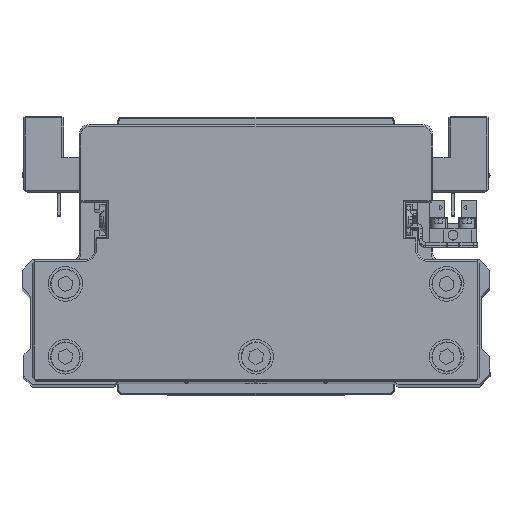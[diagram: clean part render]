
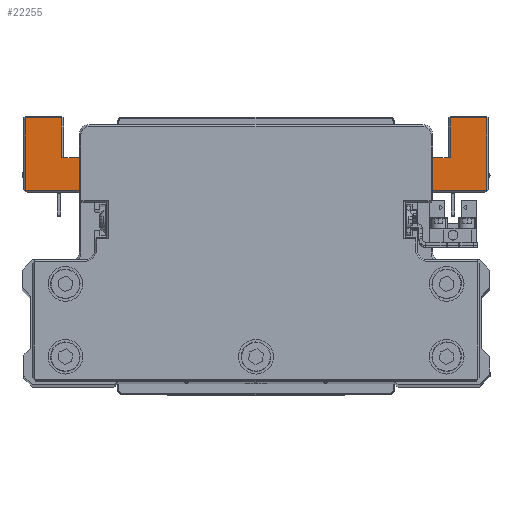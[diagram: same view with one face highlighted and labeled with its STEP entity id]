
A CAD part, top view. The second image highlights one B-rep face of the part: STEP entity #22255.
In plain terms, the highlighted planar face has unit normal (0, 0, 1) as drawn and (0, -1, 0) by its records, which use the part's own axes.
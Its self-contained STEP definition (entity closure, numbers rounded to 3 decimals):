
#18 = DIRECTION ( 'NONE',  ( 0., 0., -1. ) ) ;
#48 = CARTESIAN_POINT ( 'NONE',  ( 66.5, -45., -64. ) ) ;
#260 = CARTESIAN_POINT ( 'NONE',  ( 36.217, -45., -42.5 ) ) ;
#387 = CARTESIAN_POINT ( 'NONE',  ( 46., -45., -54. ) ) ;
#418 = EDGE_CURVE ( 'NONE', #27583, #1459, #30258, .T. ) ;
#444 = CARTESIAN_POINT ( 'NONE',  ( 56., -45., -64.5 ) ) ;
#1459 = VERTEX_POINT ( 'NONE', #9721 ) ;
#1509 = VERTEX_POINT ( 'NONE', #22365 ) ;
#1642 = ORIENTED_EDGE ( 'NONE', *, *, #12090, .T. ) ;
#1990 = DIRECTION ( 'NONE',  ( 0., 0., -1. ) ) ;
#2200 = LINE ( 'NONE', #14428, #6895 ) ;
#2369 = AXIS2_PLACEMENT_3D ( 'NONE', #17242, #29451, #1990 ) ;
#2451 = LINE ( 'NONE', #14681, #24000 ) ;
#2801 = CARTESIAN_POINT ( 'NONE',  ( -39.868, -45., -42.987 ) ) ;
#2922 = VERTEX_POINT ( 'NONE', #260 ) ;
#2991 = PLANE ( 'NONE',  #37700 ) ;
#3049 = VERTEX_POINT ( 'NONE', #37520 ) ;
#3052 = LINE ( 'NONE', #15298, #37426 ) ;
#3863 = EDGE_CURVE ( 'NONE', #11028, #8282, #21960, .T. ) ;
#3893 = EDGE_CURVE ( 'NONE', #3049, #36603, #31383, .T. ) ;
#3905 = DIRECTION ( 'NONE',  ( 0., 1., 0. ) ) ;
#3929 = CARTESIAN_POINT ( 'NONE',  ( -66.5, -45., -64.5 ) ) ;
#4013 = EDGE_CURVE ( 'NONE', #4959, #31979, #26174, .T. ) ;
#4467 = LINE ( 'NONE', #16699, #7342 ) ;
#4479 = VERTEX_POINT ( 'NONE', #20087 ) ;
#4784 = VERTEX_POINT ( 'NONE', #31290 ) ;
#4959 = VERTEX_POINT ( 'NONE', #32245 ) ;
#5586 = VECTOR ( 'NONE', #10929, 1000. ) ;
#5895 = ORIENTED_EDGE ( 'NONE', *, *, #14144, .T. ) ;
#6079 = VECTOR ( 'NONE', #11724, 1000. ) ;
#6304 = CARTESIAN_POINT ( 'NONE',  ( -56., -45., -64. ) ) ;
#6420 = DIRECTION ( 'NONE',  ( 1., 0., 0. ) ) ;
#6707 = DIRECTION ( 'NONE',  ( 0., 0., 1. ) ) ;
#6895 = VECTOR ( 'NONE', #26659, 1000. ) ;
#7342 = VECTOR ( 'NONE', #28909, 1000. ) ;
#7876 = ORIENTED_EDGE ( 'NONE', *, *, #17198, .F. ) ;
#8282 = VERTEX_POINT ( 'NONE', #10879 ) ;
#9054 = CARTESIAN_POINT ( 'NONE',  ( 25.802, -45., -41.111 ) ) ;
#9721 = CARTESIAN_POINT ( 'NONE',  ( -39.868, -45., -42.987 ) ) ;
#9892 = ORIENTED_EDGE ( 'NONE', *, *, #11015, .T. ) ;
#10021 = CARTESIAN_POINT ( 'NONE',  ( 56., -45., -64. ) ) ;
#10858 = LINE ( 'NONE', #23077, #22984 ) ;
#10879 = CARTESIAN_POINT ( 'NONE',  ( 66.5, -45., -43. ) ) ;
#10929 = DIRECTION ( 'NONE',  ( -1., 0., 0. ) ) ;
#11015 = EDGE_CURVE ( 'NONE', #13713, #2922, #36503, .T. ) ;
#11028 = VERTEX_POINT ( 'NONE', #48 ) ;
#11053 = CARTESIAN_POINT ( 'NONE',  ( -46., -45., -52.5 ) ) ;
#11484 = LINE ( 'NONE', #23695, #18893 ) ;
#11724 = DIRECTION ( 'NONE',  ( 0., 0., 1. ) ) ;
#12090 = EDGE_CURVE ( 'NONE', #12771, #13713, #29528, .T. ) ;
#12238 = AXIS2_PLACEMENT_3D ( 'NONE', #31363, #3905, #16136 ) ;
#12617 = DIRECTION ( 'NONE',  ( 1., 0., 0. ) ) ;
#12680 = DIRECTION ( 'NONE',  ( 0., 0., -1. ) ) ;
#12771 = VERTEX_POINT ( 'NONE', #21075 ) ;
#13085 = ORIENTED_EDGE ( 'NONE', *, *, #20900, .T. ) ;
#13713 = VERTEX_POINT ( 'NONE', #21718 ) ;
#14076 = VECTOR ( 'NONE', #15029, 1000. ) ;
#14144 = EDGE_CURVE ( 'NONE', #36603, #21400, #21668, .T. ) ;
#14428 = CARTESIAN_POINT ( 'NONE',  ( -66., -45., -43. ) ) ;
#14681 = CARTESIAN_POINT ( 'NONE',  ( 55.5, -45., -52.5 ) ) ;
#15029 = DIRECTION ( 'NONE',  ( -0.991, 0., -0.132 ) ) ;
#15195 = CARTESIAN_POINT ( 'NONE',  ( 46., -45., -52.5 ) ) ;
#15242 = CARTESIAN_POINT ( 'NONE',  ( 0., -45., 0. ) ) ;
#15298 = CARTESIAN_POINT ( 'NONE',  ( -77.786, -45., -42.5 ) ) ;
#15666 = EDGE_CURVE ( 'NONE', #2922, #27583, #3052, .T. ) ;
#16136 = DIRECTION ( 'NONE',  ( 0., 0., -1. ) ) ;
#16159 = DIRECTION ( 'NONE',  ( 0., 0., -1. ) ) ;
#16699 = CARTESIAN_POINT ( 'NONE',  ( 46., -45., -52.5 ) ) ;
#17000 = CARTESIAN_POINT ( 'NONE',  ( -36.217, -45., -42.5 ) ) ;
#17198 = EDGE_CURVE ( 'NONE', #4784, #4959, #38506, .T. ) ;
#17242 = CARTESIAN_POINT ( 'NONE',  ( -40.066, -45., -41.5 ) ) ;
#17699 = ORIENTED_EDGE ( 'NONE', *, *, #30259, .T. ) ;
#17856 = VERTEX_POINT ( 'NONE', #15195 ) ;
#18389 = VECTOR ( 'NONE', #6707, 1000. ) ;
#18490 = VECTOR ( 'NONE', #12680, 1000. ) ;
#18893 = VECTOR ( 'NONE', #35900, 1000. ) ;
#19012 = EDGE_CURVE ( 'NONE', #1459, #35753, #19657, .T. ) ;
#19657 = CIRCLE ( 'NONE', #2369, 1.5 ) ;
#20087 = CARTESIAN_POINT ( 'NONE',  ( 56., -45., -52.5 ) ) ;
#20206 = ORIENTED_EDGE ( 'NONE', *, *, #418, .T. ) ;
#20900 = EDGE_CURVE ( 'NONE', #35753, #3049, #2200, .T. ) ;
#21075 = CARTESIAN_POINT ( 'NONE',  ( 40.066, -45., -43. ) ) ;
#21237 = ORIENTED_EDGE ( 'NONE', *, *, #30122, .F. ) ;
#21267 = ORIENTED_EDGE ( 'NONE', *, *, #22312, .T. ) ;
#21274 = DIRECTION ( 'NONE',  ( -0.991, 0., 0.132 ) ) ;
#21276 = ORIENTED_EDGE ( 'NONE', *, *, #15666, .T. ) ;
#21330 = ORIENTED_EDGE ( 'NONE', *, *, #3893, .T. ) ;
#21400 = VERTEX_POINT ( 'NONE', #6304 ) ;
#21668 = LINE ( 'NONE', #33885, #22623 ) ;
#21718 = CARTESIAN_POINT ( 'NONE',  ( 39.868, -45., -42.987 ) ) ;
#21876 = EDGE_CURVE ( 'NONE', #4479, #38258, #27888, .T. ) ;
#21960 = LINE ( 'NONE', #34175, #18389 ) ;
#22037 = EDGE_CURVE ( 'NONE', #38258, #11028, #10858, .T. ) ;
#22255 = ADVANCED_FACE ( 'NONE', ( #30434 ), #2991, .T. ) ;
#22312 = EDGE_CURVE ( 'NONE', #4784, #1509, #27837, .T. ) ;
#22365 = CARTESIAN_POINT ( 'NONE',  ( 46., -45., -54. ) ) ;
#22607 = ORIENTED_EDGE ( 'NONE', *, *, #30273, .F. ) ;
#22623 = VECTOR ( 'NONE', #6420, 1000. ) ;
#22984 = VECTOR ( 'NONE', #35293, 1000. ) ;
#23077 = CARTESIAN_POINT ( 'NONE',  ( 67., -45., -64. ) ) ;
#23140 = EDGE_CURVE ( 'NONE', #21400, #31979, #26977, .T. ) ;
#23270 = DIRECTION ( 'NONE',  ( 0., 0., 1. ) ) ;
#23357 = VECTOR ( 'NONE', #23270, 1000. ) ;
#23637 = VECTOR ( 'NONE', #12617, 1000. ) ;
#23695 = CARTESIAN_POINT ( 'NONE',  ( 40.066, -45., -43. ) ) ;
#24000 = VECTOR ( 'NONE', #26902, 1000. ) ;
#25148 = CARTESIAN_POINT ( 'NONE',  ( -40.066, -45., -43. ) ) ;
#26174 = LINE ( 'NONE', #38382, #5586 ) ;
#26659 = DIRECTION ( 'NONE',  ( -1., 0., 0. ) ) ;
#26902 = DIRECTION ( 'NONE',  ( -1., 0., 0. ) ) ;
#26977 = LINE ( 'NONE', #39180, #6079 ) ;
#27239 = CARTESIAN_POINT ( 'NONE',  ( -56., -45., -52.5 ) ) ;
#27464 = DIRECTION ( 'NONE',  ( 0., -1., 0. ) ) ;
#27513 = DIRECTION ( 'NONE',  ( -1., 0., 0. ) ) ;
#27583 = VERTEX_POINT ( 'NONE', #17000 ) ;
#27837 = LINE ( 'NONE', #387, #23637 ) ;
#27888 = LINE ( 'NONE', #444, #18490 ) ;
#28096 = ORIENTED_EDGE ( 'NONE', *, *, #22037, .T. ) ;
#28143 = VECTOR ( 'NONE', #21274, 1000. ) ;
#28909 = DIRECTION ( 'NONE',  ( 0., 0., -1. ) ) ;
#29451 = DIRECTION ( 'NONE',  ( 0., 1., 0. ) ) ;
#29528 = CIRCLE ( 'NONE', #12238, 1.5 ) ;
#29650 = ORIENTED_EDGE ( 'NONE', *, *, #23140, .T. ) ;
#30122 = EDGE_CURVE ( 'NONE', #17856, #1509, #4467, .T. ) ;
#30258 = LINE ( 'NONE', #2801, #14076 ) ;
#30259 = EDGE_CURVE ( 'NONE', #8282, #12771, #11484, .T. ) ;
#30273 = EDGE_CURVE ( 'NONE', #4479, #17856, #2451, .T. ) ;
#30434 = FACE_OUTER_BOUND ( 'NONE', #36823, .T. ) ;
#31290 = CARTESIAN_POINT ( 'NONE',  ( -46., -45., -54. ) ) ;
#31363 = CARTESIAN_POINT ( 'NONE',  ( 40.066, -45., -41.5 ) ) ;
#31383 = LINE ( 'NONE', #3929, #33741 ) ;
#31979 = VERTEX_POINT ( 'NONE', #27239 ) ;
#32245 = CARTESIAN_POINT ( 'NONE',  ( -46., -45., -52.5 ) ) ;
#32693 = CARTESIAN_POINT ( 'NONE',  ( -66.5, -45., -64. ) ) ;
#33741 = VECTOR ( 'NONE', #16159, 1000. ) ;
#33885 = CARTESIAN_POINT ( 'NONE',  ( -55.5, -45., -64. ) ) ;
#34175 = CARTESIAN_POINT ( 'NONE',  ( 66.5, -45., -43.5 ) ) ;
#34320 = ORIENTED_EDGE ( 'NONE', *, *, #21876, .T. ) ;
#35293 = DIRECTION ( 'NONE',  ( 1., 0., 0. ) ) ;
#35753 = VERTEX_POINT ( 'NONE', #25148 ) ;
#35900 = DIRECTION ( 'NONE',  ( -1., 0., 0. ) ) ;
#36503 = LINE ( 'NONE', #9054, #28143 ) ;
#36603 = VERTEX_POINT ( 'NONE', #32693 ) ;
#36823 = EDGE_LOOP ( 'NONE', ( #21276, #20206, #38357, #13085, #21330, #5895, #29650, #37593, #7876, #21267, #21237, #22607, #34320, #28096, #39224, #17699, #1642, #9892 ) ) ;
#37426 = VECTOR ( 'NONE', #27513, 1000. ) ;
#37520 = CARTESIAN_POINT ( 'NONE',  ( -66.5, -45., -43. ) ) ;
#37593 = ORIENTED_EDGE ( 'NONE', *, *, #4013, .F. ) ;
#37700 = AXIS2_PLACEMENT_3D ( 'NONE', #15242, #27464, #18 ) ;
#38258 = VERTEX_POINT ( 'NONE', #10021 ) ;
#38357 = ORIENTED_EDGE ( 'NONE', *, *, #19012, .T. ) ;
#38382 = CARTESIAN_POINT ( 'NONE',  ( -55.5, -45., -52.5 ) ) ;
#38506 = LINE ( 'NONE', #11053, #23357 ) ;
#39180 = CARTESIAN_POINT ( 'NONE',  ( -56., -45., -52.5 ) ) ;
#39224 = ORIENTED_EDGE ( 'NONE', *, *, #3863, .T. ) ;
